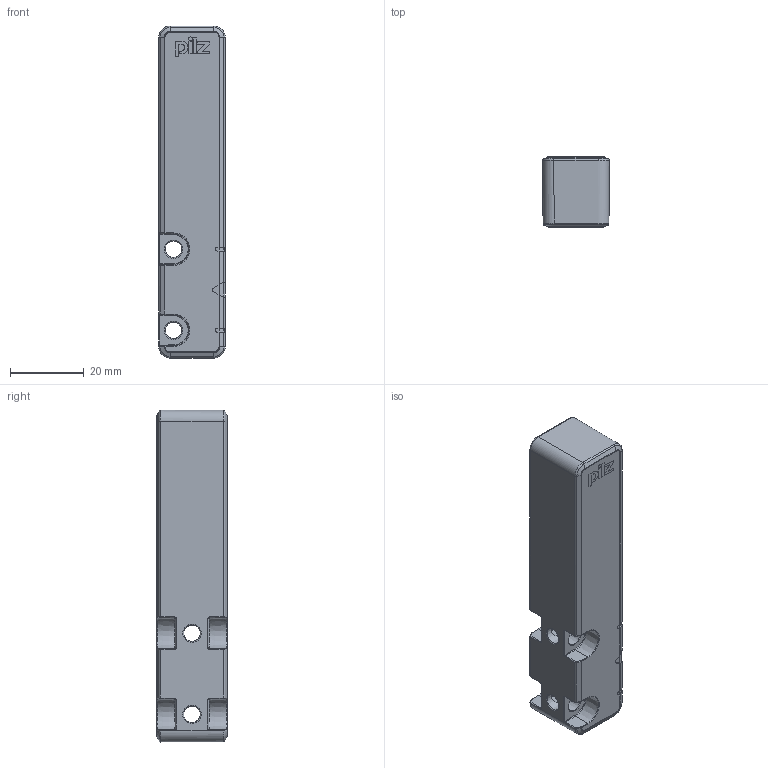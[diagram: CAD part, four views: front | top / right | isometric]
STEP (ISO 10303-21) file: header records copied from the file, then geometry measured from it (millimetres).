
FILE_DESCRIPTION((''),'2;1');
FILE_NAME('D:\_Vault\Workspace\Projektordner\Sensoren\PSENcsII\Kundendaten\H303912_PSENcsII_M12_magnet_actuator.stp','2014-07-24T12:55:54',('aschlecht'),(''),'Autodesk Inventor 2013','Autodesk Inventor 2013','');
FILE_SCHEMA(('CONFIG_CONTROL_DESIGN'));
Length unit declared in the file: millimetre
Products named in the file (1): H303912_PSENcsII_M12_magnet_actuator
Bounding box: 17.99 x 19.04 x 89.99 mm (x, y, z)
Volume: 27914.2 mm3; surface area: 7777.9 mm2
Topology: 1 solids, 1 shells, 419 faces, 1067 edges, 658 vertices
Faces by surface type: plane 156, bspline 120, cylinder 117, torus 14, cone 12
Full cylindrical faces by diameter (mm): 1.1 x2
Entity records: 15908 total; most frequent: CARTESIAN_POINT 6173, ORIENTED_EDGE 2086, DIRECTION 1855, EDGE_CURVE 1043, AXIS2_PLACEMENT_3D 650, VERTEX_POINT 650, VECTOR 555, LINE 555
